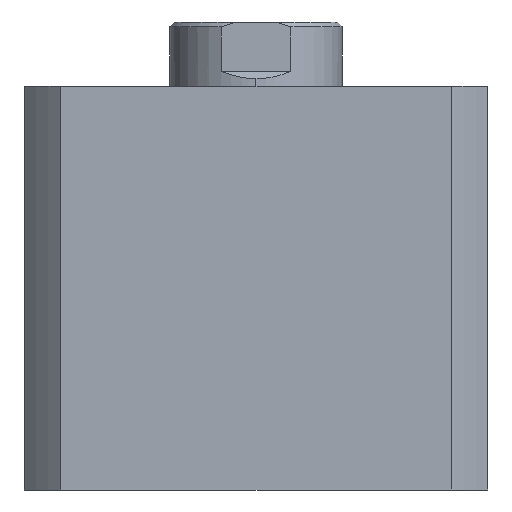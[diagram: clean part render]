
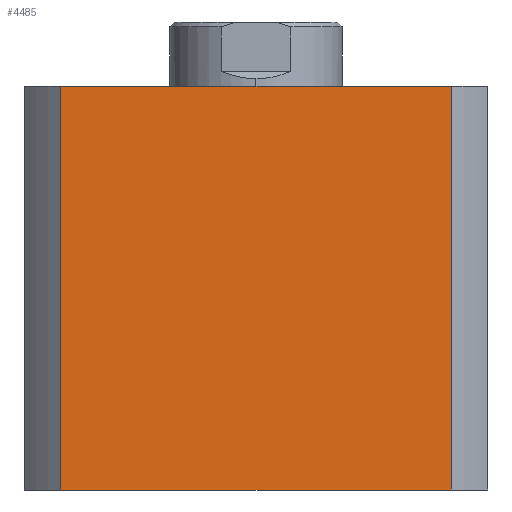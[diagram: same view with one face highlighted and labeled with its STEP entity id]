
A CAD part, left-side view. The second image highlights one B-rep face of the part: STEP entity #4485.
In plain terms, the highlighted planar face has unit normal (-1, 0, 0).
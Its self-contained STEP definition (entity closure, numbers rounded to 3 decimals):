
#438 = DIRECTION ( 'NONE',  ( 0., 0., -1. ) ) ;
#443 = CARTESIAN_POINT ( 'NONE',  ( -47., 39.664, 82. ) ) ;
#454 = CARTESIAN_POINT ( 'NONE',  ( -47., 0., 0. ) ) ;
#455 = DIRECTION ( 'NONE',  ( 0., -1., 0. ) ) ;
#480 = CARTESIAN_POINT ( 'NONE',  ( -47., -39.664, 82. ) ) ;
#481 = DIRECTION ( 'NONE',  ( 0., 0., -1. ) ) ;
#813 = EDGE_LOOP ( 'NONE', ( #1728, #1733, #1737, #1738 ) ) ;
#1384 = LINE ( 'NONE', #4284, #1387 ) ;
#1387 = VECTOR ( 'NONE', #4285, 1000. ) ;
#1728 = ORIENTED_EDGE ( 'NONE', *, *, #4855, .T. ) ;
#1733 = ORIENTED_EDGE ( 'NONE', *, *, #4863, .F. ) ;
#1737 = ORIENTED_EDGE ( 'NONE', *, *, #2788, .F. ) ;
#1738 = ORIENTED_EDGE ( 'NONE', *, *, #4850, .T. ) ;
#1933 = VECTOR ( 'NONE', #438, 1000. ) ;
#1938 = LINE ( 'NONE', #454, #1940 ) ;
#1940 = VECTOR ( 'NONE', #455, 1000. ) ;
#1950 = LINE ( 'NONE', #480, #1953 ) ;
#1953 = VECTOR ( 'NONE', #481, 1000. ) ;
#2418 = CARTESIAN_POINT ( 'NONE',  ( -47., 0., 82. ) ) ;
#2423 = PLANE ( 'NONE',  #4908 ) ;
#2426 = DIRECTION ( 'NONE',  ( 1., 0., 0. ) ) ;
#2427 = DIRECTION ( 'NONE',  ( 0., 0., -1. ) ) ;
#2788 = EDGE_CURVE ( 'NONE', #3210, #3211, #1384, .T. ) ;
#2919 = CARTESIAN_POINT ( 'NONE',  ( -47., 39.664, 82. ) ) ;
#2920 = CARTESIAN_POINT ( 'NONE',  ( -47., -39.664, 82. ) ) ;
#2939 = CARTESIAN_POINT ( 'NONE',  ( -47., 39.664, 0. ) ) ;
#2940 = CARTESIAN_POINT ( 'NONE',  ( -47., -39.664, 0. ) ) ;
#3210 = VERTEX_POINT ( 'NONE', #2919 ) ;
#3211 = VERTEX_POINT ( 'NONE', #2920 ) ;
#3230 = VERTEX_POINT ( 'NONE', #2939 ) ;
#3231 = VERTEX_POINT ( 'NONE', #2940 ) ;
#3898 = FACE_OUTER_BOUND ( 'NONE', #813, .T. ) ;
#4151 = LINE ( 'NONE', #443, #1933 ) ;
#4284 = CARTESIAN_POINT ( 'NONE',  ( -47., 0., 82. ) ) ;
#4285 = DIRECTION ( 'NONE',  ( 0., -1., 0. ) ) ;
#4485 = ADVANCED_FACE ( 'NONE', ( #3898 ), #2423, .F. ) ;
#4850 = EDGE_CURVE ( 'NONE', #3210, #3230, #4151, .T. ) ;
#4855 = EDGE_CURVE ( 'NONE', #3230, #3231, #1938, .T. ) ;
#4863 = EDGE_CURVE ( 'NONE', #3211, #3231, #1950, .T. ) ;
#4908 = AXIS2_PLACEMENT_3D ( 'NONE', #2418, #2426, #2427 ) ;
